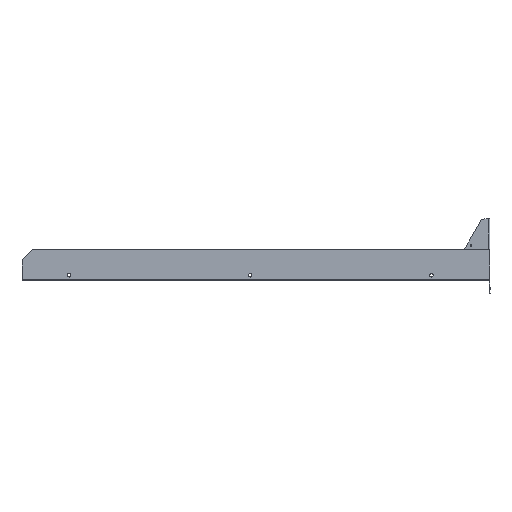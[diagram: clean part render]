
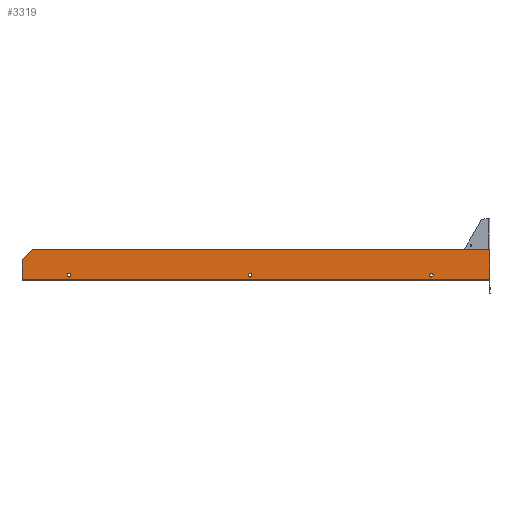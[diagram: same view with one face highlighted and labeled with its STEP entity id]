
A CAD part, left-side view. The second image highlights one B-rep face of the part: STEP entity #3319.
In plain terms, the highlighted planar face has unit normal (-1, 0, 0).
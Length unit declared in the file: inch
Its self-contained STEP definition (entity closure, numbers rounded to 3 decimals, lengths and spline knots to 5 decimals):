
#18 = CARTESIAN_POINT ( 'NONE',  ( 0., 45.525, 0.208 ) ) ;
#90 = LINE ( 'NONE', #9396, #8663 ) ;
#363 = FACE_OUTER_BOUND ( 'NONE', #9512, .T. ) ;
#558 = EDGE_LOOP ( 'NONE', ( #7746, #9374 ) ) ;
#682 = AXIS2_PLACEMENT_3D ( 'NONE', #9444, #9741, #8552 ) ;
#1086 = AXIS2_PLACEMENT_3D ( 'NONE', #4223, #6678, #4443 ) ;
#1160 = EDGE_CURVE ( 'NONE', #9001, #4005, #90, .T. ) ;
#1199 = DIRECTION ( 'NONE',  ( 0., 0., -1. ) ) ;
#1487 = PLANE ( 'NONE',  #11728 ) ;
#1707 = DIRECTION ( 'NONE',  ( 0., -1., 0. ) ) ;
#1708 = ORIENTED_EDGE ( 'NONE', *, *, #11309, .F. ) ;
#1720 = LINE ( 'NONE', #3810, #10347 ) ;
#1742 = EDGE_CURVE ( 'NONE', #13686, #13162, #1720, .T. ) ;
#1816 = DIRECTION ( 'NONE',  ( 0., 0., 1. ) ) ;
#2105 = CARTESIAN_POINT ( 'NONE',  ( 0., 36.3675, 1.336 ) ) ;
#2458 = DIRECTION ( 'NONE',  ( 1., 0., 0. ) ) ;
#2683 = ORIENTED_EDGE ( 'NONE', *, *, #13504, .F. ) ;
#2748 = CARTESIAN_POINT ( 'NONE',  ( 0., 45.525, 0.208 ) ) ;
#2838 = DIRECTION ( 'NONE',  ( 0., 0.707, -0.707 ) ) ;
#2884 = CARTESIAN_POINT ( 'NONE',  ( 0., 1.1175, 0.664 ) ) ;
#3319 = ADVANCED_FACE ( 'NONE', ( #13963, #3491, #12624, #363 ), #1487, .F. ) ;
#3441 = EDGE_CURVE ( 'NONE', #4918, #9001, #11816, .T. ) ;
#3452 = VERTEX_POINT ( 'NONE', #9580 ) ;
#3491 = FACE_BOUND ( 'NONE', #10414, .T. ) ;
#3661 = CARTESIAN_POINT ( 'NONE',  ( 0., -45.525, 0.208 ) ) ;
#3810 = CARTESIAN_POINT ( 'NONE',  ( 0., 43.525, 6. ) ) ;
#3959 = VECTOR ( 'NONE', #10355, 39.37008 ) ;
#4005 = VERTEX_POINT ( 'NONE', #7768 ) ;
#4044 = DIRECTION ( 'NONE',  ( -1., 0., 0. ) ) ;
#4223 = CARTESIAN_POINT ( 'NONE',  ( 0., 36.3675, 1. ) ) ;
#4386 = VECTOR ( 'NONE', #5008, 39.37008 ) ;
#4433 = LINE ( 'NONE', #9768, #4386 ) ;
#4443 = DIRECTION ( 'NONE',  ( 0., 0., 1. ) ) ;
#4606 = CARTESIAN_POINT ( 'NONE',  ( 0., 1.1175, 1. ) ) ;
#4841 = LINE ( 'NONE', #5803, #3959 ) ;
#4894 = CIRCLE ( 'NONE', #1086, 0.336 ) ;
#4918 = VERTEX_POINT ( 'NONE', #18 ) ;
#5008 = DIRECTION ( 'NONE',  ( 0., 0., 1. ) ) ;
#5033 = ORIENTED_EDGE ( 'NONE', *, *, #1160, .T. ) ;
#5317 = CIRCLE ( 'NONE', #11506, 0.336 ) ;
#5379 = ORIENTED_EDGE ( 'NONE', *, *, #6883, .F. ) ;
#5386 = CARTESIAN_POINT ( 'NONE',  ( 0., 1.1175, 1.336 ) ) ;
#5733 = VERTEX_POINT ( 'NONE', #9115 ) ;
#5803 = CARTESIAN_POINT ( 'NONE',  ( 0., 45.525, 6. ) ) ;
#5810 = CARTESIAN_POINT ( 'NONE',  ( 0., 1.1175, 1. ) ) ;
#6034 = AXIS2_PLACEMENT_3D ( 'NONE', #5810, #6709, #11397 ) ;
#6122 = DIRECTION ( 'NONE',  ( 0., 0., 1. ) ) ;
#6263 = CARTESIAN_POINT ( 'NONE',  ( 0., 36.3675, 1. ) ) ;
#6677 = CARTESIAN_POINT ( 'NONE',  ( 0., 43.525, 6. ) ) ;
#6678 = DIRECTION ( 'NONE',  ( -1., 0., 0. ) ) ;
#6709 = DIRECTION ( 'NONE',  ( -1., 0., 0. ) ) ;
#6796 = ORIENTED_EDGE ( 'NONE', *, *, #9451, .F. ) ;
#6883 = EDGE_CURVE ( 'NONE', #3452, #12694, #12079, .T. ) ;
#7746 = ORIENTED_EDGE ( 'NONE', *, *, #9863, .F. ) ;
#7753 = CARTESIAN_POINT ( 'NONE',  ( 0., -34.1325, 1. ) ) ;
#7763 = ORIENTED_EDGE ( 'NONE', *, *, #1742, .T. ) ;
#7768 = CARTESIAN_POINT ( 'NONE',  ( 0., -45.525, 6. ) ) ;
#8177 = CARTESIAN_POINT ( 'NONE',  ( 0., 45.525, 0. ) ) ;
#8234 = EDGE_LOOP ( 'NONE', ( #6796, #13670 ) ) ;
#8488 = ORIENTED_EDGE ( 'NONE', *, *, #3441, .T. ) ;
#8552 = DIRECTION ( 'NONE',  ( 0., 0., 1. ) ) ;
#8660 = AXIS2_PLACEMENT_3D ( 'NONE', #4606, #11452, #9075 ) ;
#8663 = VECTOR ( 'NONE', #10443, 39.37008 ) ;
#8697 = EDGE_CURVE ( 'NONE', #5733, #8953, #5317, .T. ) ;
#8756 = CIRCLE ( 'NONE', #682, 0.336 ) ;
#8953 = VERTEX_POINT ( 'NONE', #2105 ) ;
#9001 = VERTEX_POINT ( 'NONE', #3661 ) ;
#9031 = EDGE_CURVE ( 'NONE', #13966, #12835, #11258, .T. ) ;
#9075 = DIRECTION ( 'NONE',  ( 0., 0., 1. ) ) ;
#9115 = CARTESIAN_POINT ( 'NONE',  ( 0., 36.3675, 0.664 ) ) ;
#9259 = ORIENTED_EDGE ( 'NONE', *, *, #10430, .F. ) ;
#9374 = ORIENTED_EDGE ( 'NONE', *, *, #8697, .F. ) ;
#9396 = CARTESIAN_POINT ( 'NONE',  ( 0., -45.525, 0. ) ) ;
#9444 = CARTESIAN_POINT ( 'NONE',  ( 0., -34.1325, 1. ) ) ;
#9451 = EDGE_CURVE ( 'NONE', #12835, #13966, #13891, .T. ) ;
#9512 = EDGE_LOOP ( 'NONE', ( #9259, #7763, #1708, #8488, #5033 ) ) ;
#9580 = CARTESIAN_POINT ( 'NONE',  ( 0., -34.1325, 1.336 ) ) ;
#9741 = DIRECTION ( 'NONE',  ( -1., 0., 0. ) ) ;
#9768 = CARTESIAN_POINT ( 'NONE',  ( 0., 45.525, 0. ) ) ;
#9863 = EDGE_CURVE ( 'NONE', #8953, #5733, #4894, .T. ) ;
#10347 = VECTOR ( 'NONE', #2838, 39.37008 ) ;
#10355 = DIRECTION ( 'NONE',  ( 0., -1., 0. ) ) ;
#10414 = EDGE_LOOP ( 'NONE', ( #5379, #2683 ) ) ;
#10430 = EDGE_CURVE ( 'NONE', #13686, #4005, #4841, .T. ) ;
#10443 = DIRECTION ( 'NONE',  ( 0., 0., 1. ) ) ;
#10595 = CARTESIAN_POINT ( 'NONE',  ( 0., 45.525, 4. ) ) ;
#10894 = AXIS2_PLACEMENT_3D ( 'NONE', #7753, #4044, #1816 ) ;
#11258 = CIRCLE ( 'NONE', #6034, 0.336 ) ;
#11309 = EDGE_CURVE ( 'NONE', #4918, #13162, #4433, .T. ) ;
#11397 = DIRECTION ( 'NONE',  ( 0., 0., 1. ) ) ;
#11452 = DIRECTION ( 'NONE',  ( -1., 0., 0. ) ) ;
#11506 = AXIS2_PLACEMENT_3D ( 'NONE', #6263, #11852, #6122 ) ;
#11728 = AXIS2_PLACEMENT_3D ( 'NONE', #8177, #2458, #1199 ) ;
#11816 = LINE ( 'NONE', #2748, #13232 ) ;
#11852 = DIRECTION ( 'NONE',  ( -1., 0., 0. ) ) ;
#12079 = CIRCLE ( 'NONE', #10894, 0.336 ) ;
#12624 = FACE_BOUND ( 'NONE', #8234, .T. ) ;
#12694 = VERTEX_POINT ( 'NONE', #12973 ) ;
#12835 = VERTEX_POINT ( 'NONE', #5386 ) ;
#12973 = CARTESIAN_POINT ( 'NONE',  ( 0., -34.1325, 0.664 ) ) ;
#13162 = VERTEX_POINT ( 'NONE', #10595 ) ;
#13232 = VECTOR ( 'NONE', #1707, 39.37008 ) ;
#13504 = EDGE_CURVE ( 'NONE', #12694, #3452, #8756, .T. ) ;
#13670 = ORIENTED_EDGE ( 'NONE', *, *, #9031, .F. ) ;
#13686 = VERTEX_POINT ( 'NONE', #6677 ) ;
#13891 = CIRCLE ( 'NONE', #8660, 0.336 ) ;
#13963 = FACE_BOUND ( 'NONE', #558, .T. ) ;
#13966 = VERTEX_POINT ( 'NONE', #2884 ) ;
